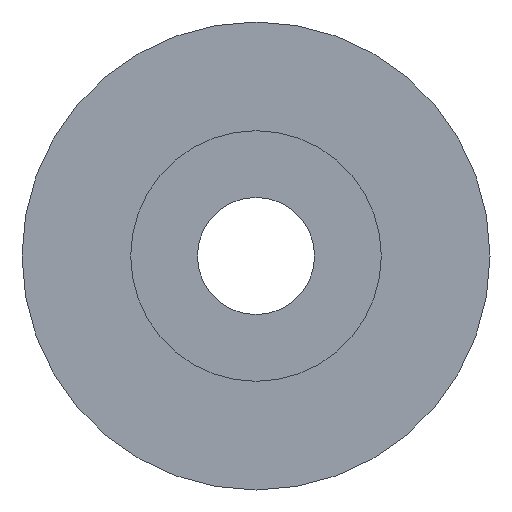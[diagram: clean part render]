
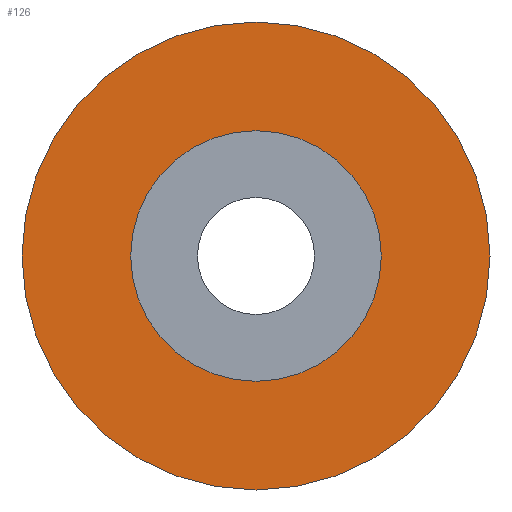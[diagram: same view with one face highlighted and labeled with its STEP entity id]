
A CAD part, front view. The second image highlights one B-rep face of the part: STEP entity #126.
In plain terms, the highlighted planar face has unit normal (0, -1, 0).
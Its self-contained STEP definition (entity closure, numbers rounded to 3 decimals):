
#1=CARTESIAN_POINT('',(0.,0.,0.));
#2=DIRECTION('',(0.,1.,0.));
#3=DIRECTION('',(1.,0.,0.));
#4=AXIS2_PLACEMENT_3D('',#1,#2,#3);
#6=CARTESIAN_POINT('',(0.,0.,0.));
#7=DIRECTION('',(0.,1.,0.));
#8=DIRECTION('',(-1.,0.,0.));
#9=AXIS2_PLACEMENT_3D('',#6,#7,#8);
#11=CARTESIAN_POINT('',(0.,0.,0.));
#12=DIRECTION('',(0.,-1.,0.));
#13=DIRECTION('',(1.,0.,0.));
#14=AXIS2_PLACEMENT_3D('',#11,#12,#13);
#16=CARTESIAN_POINT('',(0.,0.,0.));
#17=DIRECTION('',(0.,-1.,0.));
#18=DIRECTION('',(-1.,0.,0.));
#19=AXIS2_PLACEMENT_3D('',#16,#17,#18);
#85=CARTESIAN_POINT('',(14.,0.,0.));
#86=CARTESIAN_POINT('',(-14.,0.,0.));
#87=VERTEX_POINT('',#85);
#88=VERTEX_POINT('',#86);
#97=CARTESIAN_POINT('',(7.5,0.,0.));
#98=CARTESIAN_POINT('',(-7.5,0.,0.));
#99=VERTEX_POINT('',#97);
#100=VERTEX_POINT('',#98);
#109=CARTESIAN_POINT('',(0.,0.,0.));
#110=DIRECTION('',(0.,1.,0.));
#111=DIRECTION('',(1.,0.,0.));
#112=AXIS2_PLACEMENT_3D('',#109,#110,#111);
#113=PLANE('',#112);
#115=ORIENTED_EDGE('',*,*,#114,.T.);
#117=ORIENTED_EDGE('',*,*,#116,.T.);
#118=EDGE_LOOP('',(#115,#117));
#119=FACE_OUTER_BOUND('',#118,.F.);
#121=ORIENTED_EDGE('',*,*,#120,.T.);
#123=ORIENTED_EDGE('',*,*,#122,.T.);
#124=EDGE_LOOP('',(#121,#123));
#125=FACE_BOUND('',#124,.F.);
#126=ADVANCED_FACE('',(#119,#125),#113,.F.);
#5=CIRCLE('',#4,14.);
#10=CIRCLE('',#9,14.);
#15=CIRCLE('',#14,7.5);
#20=CIRCLE('',#19,7.5);
#114=EDGE_CURVE('',#87,#88,#5,.T.);
#116=EDGE_CURVE('',#88,#87,#10,.T.);
#120=EDGE_CURVE('',#99,#100,#15,.T.);
#122=EDGE_CURVE('',#100,#99,#20,.T.);
